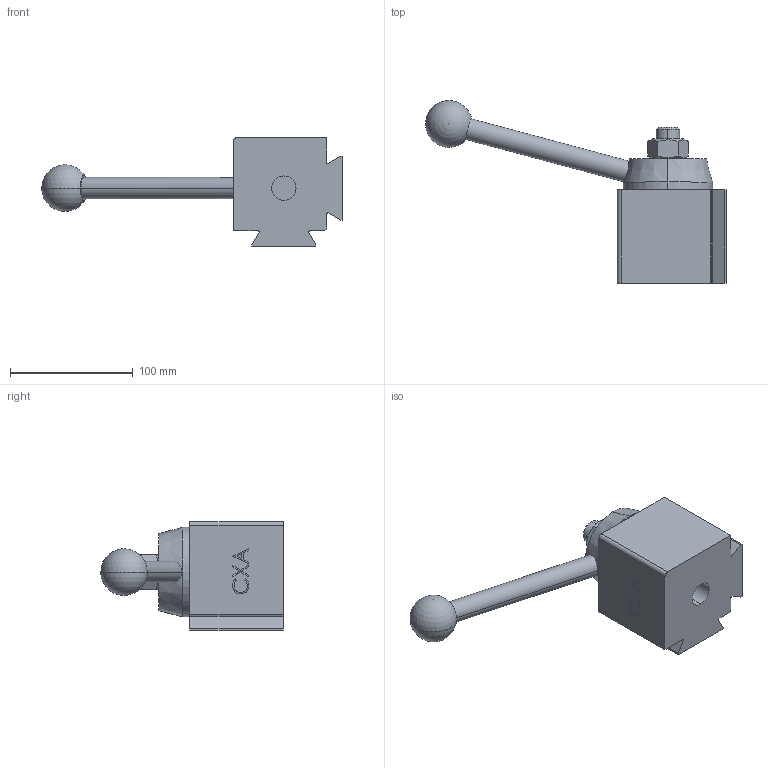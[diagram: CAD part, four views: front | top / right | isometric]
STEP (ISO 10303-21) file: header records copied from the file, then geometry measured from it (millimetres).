
FILE_DESCRIPTION (( 'STEP AP214' ), '1' );
FILE_NAME ('30704 QC TOOL POST CXA.STEP', '2014-07-21T18:39:24', ( '' ), ( '' ), 'SwSTEP 2.0', 'SolidWorks 2012', '' );
FILE_SCHEMA (( 'AUTOMOTIVE_DESIGN' ));
Length unit declared in the file: inch
Products named in the file (1): 30704 QC TOOL POST CXA
Bounding box: 245.36 x 148.97 x 88.9 mm (x, y, z)
Volume: 670827.8 mm3; surface area: 67828.6 mm2
Topology: 1 solids, 1 shells, 92 faces, 242 edges, 160 vertices
Faces by surface type: plane 59, cylinder 14, bspline 9, cone 8, sphere 2
Entity records: 4094 total; most frequent: CARTESIAN_POINT 1332, ORIENTED_EDGE 474, DIRECTION 407, EDGE_CURVE 237, VECTOR 163, LINE 163, VERTEX_POINT 157, AXIS2_PLACEMENT_3D 122
